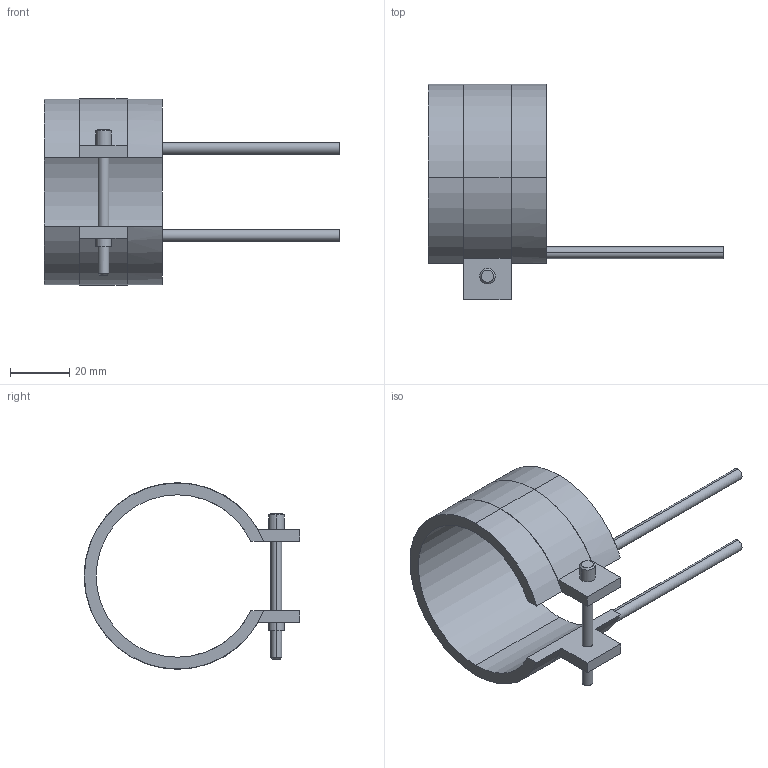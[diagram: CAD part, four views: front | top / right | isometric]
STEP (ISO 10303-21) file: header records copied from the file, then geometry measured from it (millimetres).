
FILE_DESCRIPTION(('CATIA V5 STEP Exchange'),'2;1');
FILE_NAME('C:\Users\Utente\Desktop\IO LAVORO\3D X SITO CF\X SITO\PLASTICA\RF2\14055040.stp','2021-04-01T09:34:20+00:00',('none'),('none'),'CATIA Version 5 Release 20 GA (IN-10)','CATIA V5 STEP AP203','none');
FILE_SCHEMA(('CONFIG_CONTROL_DESIGN'));
Length unit declared in the file: millimetre
Products named in the file (1): 14055040
Bounding box: 100 x 73.1 x 63.2 mm (x, y, z)
Volume: 29774.3 mm3; surface area: 17612 mm2
Topology: 1 solids, 1 shells, 45 faces, 116 edges, 76 vertices
Faces by surface type: cylinder 24, plane 17, cone 4
Entity records: 1400 total; most frequent: CARTESIAN_POINT 274, ORIENTED_EDGE 232, DIRECTION 196, EDGE_CURVE 116, AXIS2_PLACEMENT_3D 104, VERTEX_POINT 76, CIRCLE 62, VECTOR 52
